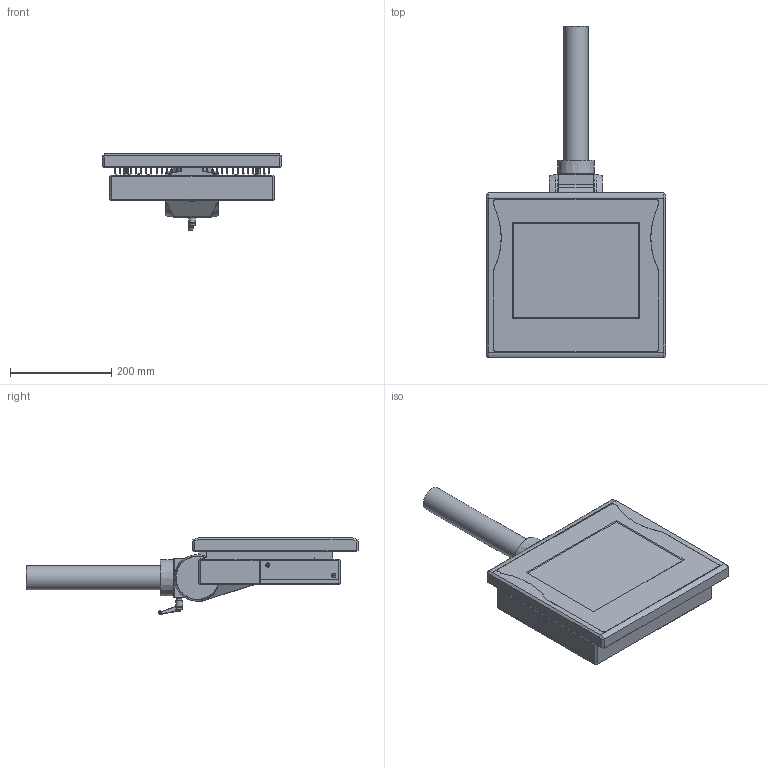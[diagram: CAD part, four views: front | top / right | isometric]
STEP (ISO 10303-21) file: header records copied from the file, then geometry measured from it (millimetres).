
FILE_DESCRIPTION((''),'2;1');
FILE_NAME('X:\0-inventor\0-3d-Teile\PC-Compo\solids\CP72\0-Ausgabe\CP7211-0001-M162.stp','2011-02-11T09:41:14',('ChristianKreuzer'),(''),'Autodesk Inventor 2011','Autodesk Inventor 2011','');
FILE_SCHEMA(('AUTOMOTIVE_DESIGN { 1 0 10303 214 1 1 1 1 }'));
Length unit declared in the file: centimetre
Products named in the file (1): Bauteil8
Bounding box: 353.8 x 655.44 x 150.08 mm (x, y, z)
Volume: 7216704.6 mm3; surface area: 973439.1 mm2
Topology: 4 solids, 58 shells, 3072 faces, 7860 edges, 5099 vertices
Faces by surface type: plane 1784, cylinder 776, cone 343, torus 143, sphere 18, bspline 8
Full cylindrical faces by diameter (mm): 1 x20, 1.5 x57, 2.013 x1, 2.256 x2, 2.459 x2, 2.5 x2, 2.8 x2, 3 x8, 3.242 x18, 3.571 x8, 3.621 x4, 4 x28, 4.2 x4, 4.3 x3, 4.4 x6, 4.5 x12, 4.6 x7, 5 x2, 6 x7, 6.2 x4, 6.5 x1, 6.6 x6, 7 x13, 7.5 x4, 7.6 x10, 8 x3, 8.4 x3, 8.5 x2, 9 x6, 10 x4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
Entity records: 96341 total; most frequent: CARTESIAN_POINT 21210, DIRECTION 14906, ORIENTED_EDGE 14326, EDGE_CURVE 7163, AXIS2_PLACEMENT_3D 5415, VERTEX_POINT 4908, VECTOR 4076, LINE 4076
